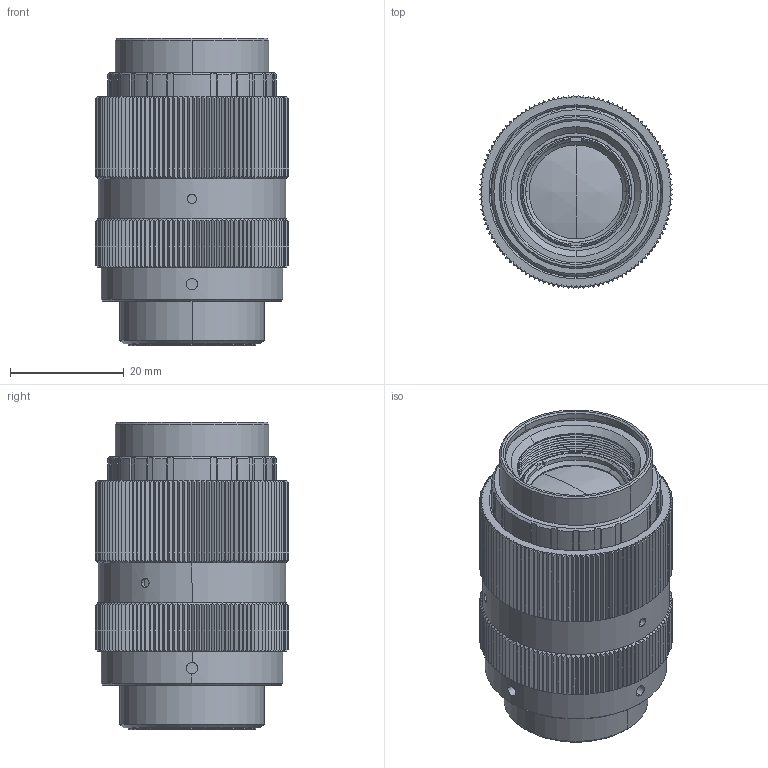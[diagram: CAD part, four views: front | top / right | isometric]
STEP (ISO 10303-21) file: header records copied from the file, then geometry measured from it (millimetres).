
FILE_DESCRIPTION (( 'STEP AP203' ), '1' );
FILE_NAME ('LC75C_1F_‰c‹Æ—p3D.STEP', '2021-04-06T07:20:42', ( '' ), ( '' ), 'SwSTEP 2.0', 'SolidWorks 2019', '' );
FILE_SCHEMA (( 'CONFIG_CONTROL_DESIGN' ));
Length unit declared in the file: millimetre
Products named in the file (1): LC75C_1F_営業用3D
Bounding box: 33.99 x 33.99 x 54 mm (x, y, z)
Volume: 37995.7 mm3; surface area: 9727.8 mm2
Topology: 1 solids, 1 shells, 955 faces, 2738 edges, 1803 vertices
Faces by surface type: plane 562, cone 310, cylinder 81, sphere 2
Entity records: 32449 total; most frequent: CARTESIAN_POINT 9225, ORIENTED_EDGE 5476, DIRECTION 3962, EDGE_CURVE 2738, VERTEX_POINT 1803, AXIS2_PLACEMENT_3D 1392, VECTOR 1178, LINE 1178
